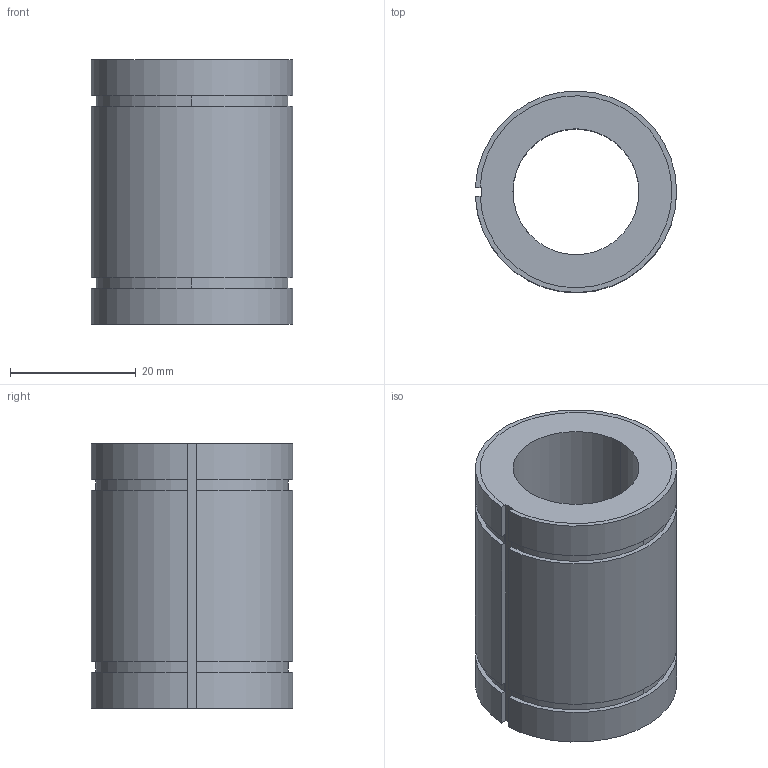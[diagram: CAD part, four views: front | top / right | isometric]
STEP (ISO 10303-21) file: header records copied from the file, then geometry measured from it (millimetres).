
FILE_DESCRIPTION((''),'2;1');
FILE_NAME('C:\Documents and Settings\ｿﾀﾀ蠑ｷ1\ｹﾙﾅﾁ ﾈｭｸ饅\ｺﾎﾇｰﾆﾄﾀﾏ\ﾁｦﾇｰ\LM__UUAJ\LM20UUAJ.stp','2005-06-14T16:24:55',('ｿﾀﾀ蠑ｷ1'),(''),'Autodesk Inventor 9','Autodesk Inventor 9','');
FILE_SCHEMA(('AUTOMOTIVE_DESIGN { 1 0 10303 214 1 1 1 1 }'));
Length unit declared in the file: millimetre
Products named in the file (1): LM__AJ
Bounding box: 31.98 x 31.99 x 42 mm (x, y, z)
Volume: 20289.1 mm3; surface area: 8191.1 mm2
Topology: 1 solids, 1 shells, 25 faces, 70 edges, 47 vertices
Faces by surface type: cylinder 14, plane 11
Entity records: 850 total; most frequent: DIRECTION 153, CARTESIAN_POINT 143, ORIENTED_EDGE 140, EDGE_CURVE 70, AXIS2_PLACEMENT_3D 57, VERTEX_POINT 47, VECTOR 39, LINE 39
